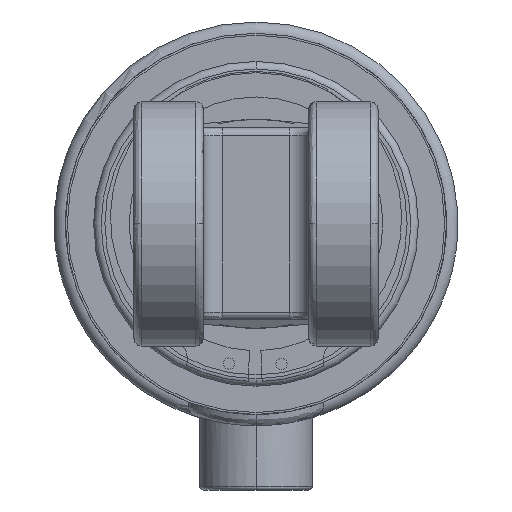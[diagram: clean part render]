
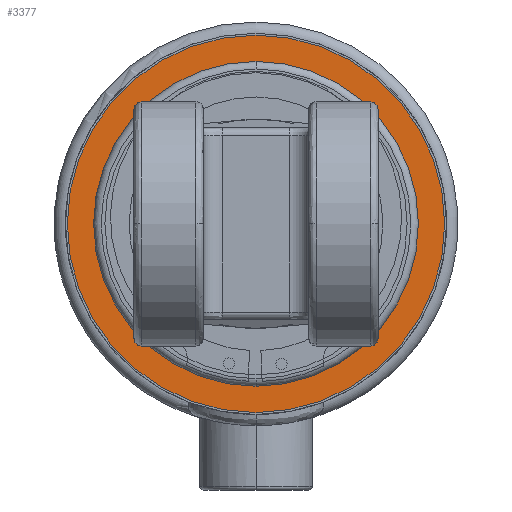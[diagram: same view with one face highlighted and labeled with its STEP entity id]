
A CAD part, left-side view. The second image highlights one B-rep face of the part: STEP entity #3377.
In plain terms, the highlighted planar face has unit normal (-1, 0, 0).
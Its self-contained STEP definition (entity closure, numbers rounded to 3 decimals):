
#607 = EDGE_CURVE ( 'NONE', #5367, #5195, #10264, .T. ) ;
#790 = DIRECTION ( 'NONE',  ( -1., 0., 0. ) ) ;
#1148 = ORIENTED_EDGE ( 'NONE', *, *, #8835, .F. ) ;
#1150 = VERTEX_POINT ( 'NONE', #3034 ) ;
#1152 = VERTEX_POINT ( 'NONE', #9194 ) ;
#1508 = CARTESIAN_POINT ( 'NONE',  ( -1027.005, 0., 0. ) ) ;
#1608 = CIRCLE ( 'NONE', #7321, 43.2 ) ;
#1867 = CIRCLE ( 'NONE', #3138, 50.2 ) ;
#2371 = DIRECTION ( 'NONE',  ( 0., 0., 1. ) ) ;
#2425 = CARTESIAN_POINT ( 'NONE',  ( -1027.005, 0., 0. ) ) ;
#2504 = PLANE ( 'NONE',  #3729 ) ;
#2509 = EDGE_CURVE ( 'NONE', #1150, #1152, #1608, .T. ) ;
#3034 = CARTESIAN_POINT ( 'NONE',  ( -1027.005, 0., -43.2 ) ) ;
#3138 = AXIS2_PLACEMENT_3D ( 'NONE', #6027, #790, #6917 ) ;
#3302 = DIRECTION ( 'NONE',  ( 0., 0., 1. ) ) ;
#3377 = ADVANCED_FACE ( 'NONE', ( #9429, #8870 ), #2504, .T. ) ;
#3391 = EDGE_CURVE ( 'NONE', #5195, #5367, #1867, .T. ) ;
#3393 = DIRECTION ( 'NONE',  ( 0., 0., 1. ) ) ;
#3503 = CARTESIAN_POINT ( 'NONE',  ( -1027.005, 0., 0. ) ) ;
#3729 = AXIS2_PLACEMENT_3D ( 'NONE', #10354, #8649, #3393 ) ;
#3852 = AXIS2_PLACEMENT_3D ( 'NONE', #2425, #8576, #3302 ) ;
#4385 = DIRECTION ( 'NONE',  ( 0., 0., 1. ) ) ;
#4651 = CARTESIAN_POINT ( 'NONE',  ( -1027.005, 0., -50.2 ) ) ;
#4983 = ORIENTED_EDGE ( 'NONE', *, *, #3391, .T. ) ;
#5195 = VERTEX_POINT ( 'NONE', #4651 ) ;
#5367 = VERTEX_POINT ( 'NONE', #10110 ) ;
#6027 = CARTESIAN_POINT ( 'NONE',  ( -1027.005, 0., 0. ) ) ;
#6417 = ORIENTED_EDGE ( 'NONE', *, *, #2509, .F. ) ;
#6917 = DIRECTION ( 'NONE',  ( 0., 0., 1. ) ) ;
#7321 = AXIS2_PLACEMENT_3D ( 'NONE', #3503, #9644, #4385 ) ;
#7633 = DIRECTION ( 'NONE',  ( -1., 0., 0. ) ) ;
#7815 = AXIS2_PLACEMENT_3D ( 'NONE', #1508, #7633, #2371 ) ;
#8534 = CIRCLE ( 'NONE', #3852, 43.2 ) ;
#8576 = DIRECTION ( 'NONE',  ( -1., 0., 0. ) ) ;
#8649 = DIRECTION ( 'NONE',  ( -1., 0., 0. ) ) ;
#8835 = EDGE_CURVE ( 'NONE', #1152, #1150, #8534, .T. ) ;
#8870 = FACE_BOUND ( 'NONE', #10602, .T. ) ;
#9194 = CARTESIAN_POINT ( 'NONE',  ( -1027.005, 0., 43.2 ) ) ;
#9429 = FACE_OUTER_BOUND ( 'NONE', #10967, .T. ) ;
#9644 = DIRECTION ( 'NONE',  ( -1., 0., 0. ) ) ;
#10110 = CARTESIAN_POINT ( 'NONE',  ( -1027.005, 0., 50.2 ) ) ;
#10264 = CIRCLE ( 'NONE', #7815, 50.2 ) ;
#10354 = CARTESIAN_POINT ( 'NONE',  ( -1027.005, 0., -50.2 ) ) ;
#10602 = EDGE_LOOP ( 'NONE', ( #1148, #6417 ) ) ;
#10967 = EDGE_LOOP ( 'NONE', ( #11160, #4983 ) ) ;
#11160 = ORIENTED_EDGE ( 'NONE', *, *, #607, .T. ) ;
